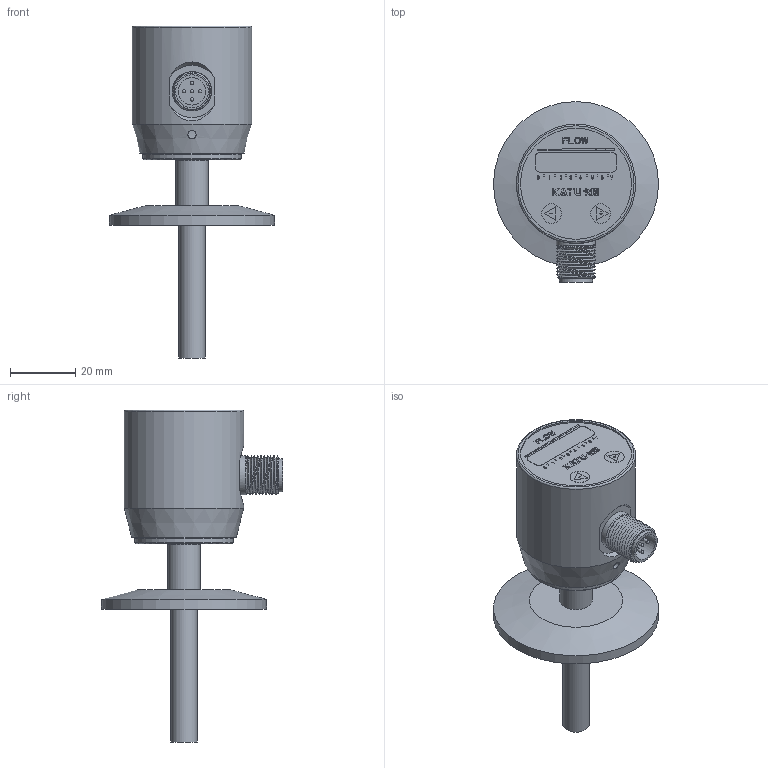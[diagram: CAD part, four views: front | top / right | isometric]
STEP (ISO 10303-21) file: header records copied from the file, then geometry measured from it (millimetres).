
FILE_DESCRIPTION( (''), '2;1');
FILE_NAME( 'QSKD_H50_L40_tri-clamp.step', '2024-04-08T08:23:53+08:00', (''), (''), '', '', '');
FILE_SCHEMA (('AUTOMOTIVE_DESIGN { 1 0 10303 214 3 1 1 1 }'));
Length unit declared in the file: millimetre
Products named in the file (1): QSKD H50_L40_tri-clamp
Bounding box: 50.5 x 55.4 x 101.6 mm (x, y, z)
Volume: 58598.4 mm3; surface area: 18450.5 mm2
Topology: 5 solids, 5 shells, 665 faces, 1767 edges, 1172 vertices
Faces by surface type: plane 577, cylinder 54, sphere 11, bspline 10, cone 8, torus 5
Full cylindrical faces by diameter (mm): 1 x10, 2.5 x1, 6 x2, 6.8 x1, 8 x1, 8.4 x1, 9.7 x1, 9.8 x1, 10 x1, 10.1 x1, 11 x1, 11.6 x2, 12 x1, 23 x3, 26.1 x4, 30 x1, 34 x1, 36.5 x1, 50.5 x1
Entity records: 21337 total; most frequent: CARTESIAN_POINT 5209, ORIENTED_EDGE 3320, DIRECTION 3046, EDGE_CURVE 1660, LINE 1512, VECTOR 1512, VERTEX_POINT 1133, EDGE_LOOP 793
